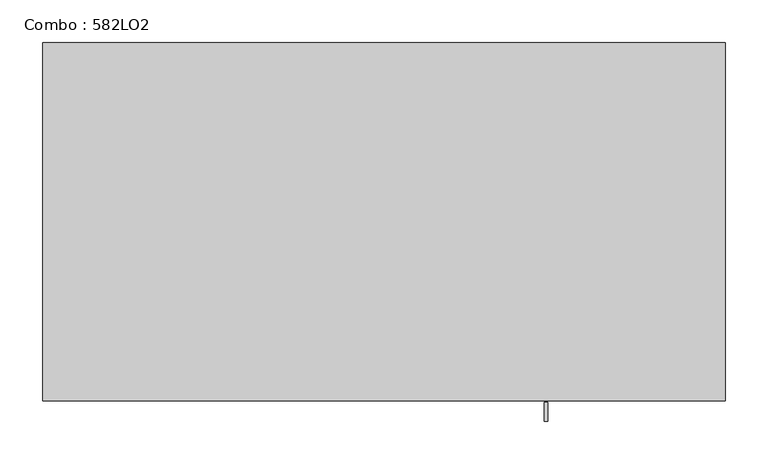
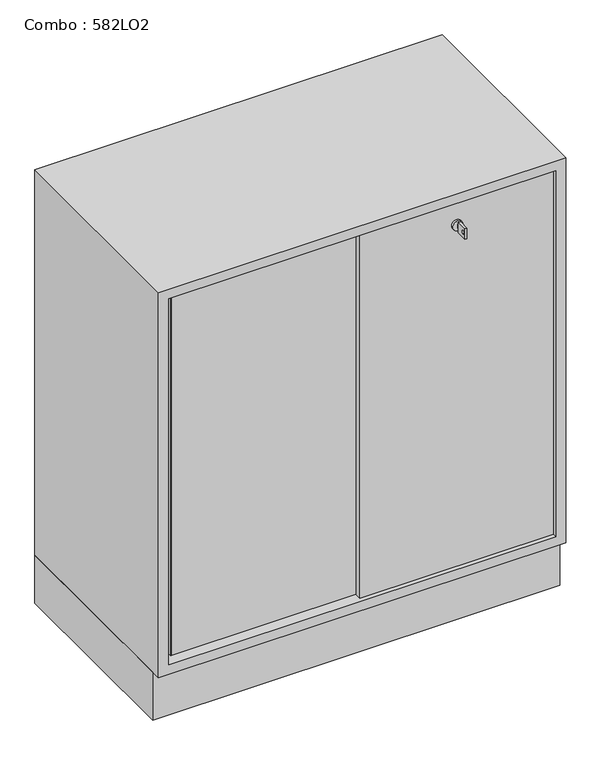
"""IFC4 building model written with IfcOpenShell, lengths in millimetres: furniture geometry, Combo : 582LO2."""

from ifc_helpers import new_model, si_unit, point, frame, frame_2d, origin, origin_with_axes, place, context, project, spatial, polyline, circle_curve, trimmed, segment, composite_curve, outline, extrude, faceted_brep, source, transform, mapped, element, save


def combo_582lo2_4d29bc16(model_context):
    return source(origin(), model_context, "Body", "SolidModel", [
        extrude(outline(polyline([(-400.0, -400.0), (-400.0, 0.0), (400.0, 0.0), (400.0, -400.0), (-400.0, -400.0)])), origin_with_axes(), (0.0, 0.0, 1.0), 100.0),
        extrude(outline(composite_curve([segment(trimmed(circle_curve(frame_2d((830.0, 190.0)), 10.0), [point((830.0, 180.0))], [point((830.0, 200.0))], False, "CARTESIAN"), True, "CONTINUOUS"), segment(trimmed(circle_curve(frame_2d((830.0, 190.0)), 10.0), [point((830.0, 200.0))], [point((830.0, 180.0))], False, "CARTESIAN"), True, "CONTINUOUS")], self_intersect=False)), frame((0.0, -416.0, 0.0), z_axis=(0.0, 1.0, 0.0), x_axis=(0.0, 0.0, 1.0)), (0.0, 0.0, 1.0), 4.0),
        extrude(outline(polyline([(-444.0, 819.014113), (-444.0, 841.0), (-422.0, 841.0), (-422.0, 819.014113), (-444.0, 819.014113)]), holes=[composite_curve([segment(trimmed(circle_curve(frame_2d((-437.75, 830.0070565)), 3.2230706), [point((-437.75, 833.2301271))], [point((-437.75, 826.7839859))], True, "CARTESIAN"), True, "CONTINUOUS"), segment(trimmed(circle_curve(frame_2d((-437.75, 830.0070565)), 3.2230706), [point((-437.75, 826.7839859))], [point((-437.75, 833.2301271))], True, "CARTESIAN"), True, "CONTINUOUS")], self_intersect=False)]), frame((188.0, 0.0, 0.0), z_axis=(1.0, 0.0, 0.0), x_axis=(0.0, 1.0, 0.0)), (0.0, 0.0, 1.0), 4.0416064),
        extrude(outline(polyline([(191.0416064, -422.0), (189.0, -422.0), (189.0, -416.0), (191.0416064, -416.0), (191.0416064, -422.0)])), frame((0.0, 0.0, 826.014113), z_axis=(0.0, 0.0, 1.0), x_axis=(1.0, 0.0, 0.0)), (0.0, 0.0, 1.0), 7.985887),
        extrude(outline(polyline([(-378.0478528, -398.0), (-380.0, -398.0), (-380.0, -386.0), (380.0, -386.0), (380.0, -412.0), (0.0, -412.0), (0.0, -400.0), (8.9521472, -400.0), (8.9521472, -398.0), (-361.0478528, -398.0), (-363.0478528, -398.0), (-363.0478528, -388.0), (-378.0478528, -388.0), (-378.0478528, -398.0)])), frame((0.0, 0.0, 120.0), z_axis=(0.0, 0.0, 1.0), x_axis=(1.0, 0.0, 0.0)), (0.0, 0.0, 1.0), 760.0),
        faceted_brep([(400.0, 0.0, 900.0), (-400.0, 0.0, 900.0), (-400.0, -420.0, 900.0), (400.0, -420.0, 900.0), (-400.0, 0.0, 100.0), (400.0, 0.0, 100.0), (400.0, -420.0, 100.0), (-400.0, -420.0, 100.0), (-380.0, -420.0, 880.0), (380.0, -420.0, 880.0), (380.0, -420.0, 120.0), (-380.0, -420.0, 120.0), (-380.0, -386.0, 880.0), (380.0, -386.0, 880.0), (-380.0, -386.0, 120.0), (380.0, -386.0, 120.0)], [[[0, 1, 2, 3]], [[4, 5, 6, 7]], [[1, 0, 5, 4]], [[2, 1, 4, 7]], [[3, 2, 7, 6], [8, 9, 10, 11]], [[0, 3, 6, 5]], [[12, 13, 9, 8]], [[14, 11, 10, 15]], [[9, 13, 15, 10]], [[12, 8, 11, 14]], [[13, 12, 14, 15]]]),
    ])


if __name__ == "__main__":
    model = new_model("IFC4")
    model_context = context("Model", 3, world=origin())
    ifc_project = project(units=[si_unit("LENGTHUNIT", "METRE", prefix="MILLI")], contexts=[model_context])
    site = spatial("IfcSite", under=ifc_project)
    building = spatial("IfcBuilding", under=site)
    placement = place(None, origin())
    combo_582lo2_shape = combo_582lo2_4d29bc16(model_context)
    element("IfcFurniture", 1, ObjectType="Combo : 582LO2", at=placement, inside=building, context=model_context, shape_type="MappedRepresentation", body=[
        mapped(combo_582lo2_shape, transform((0.0, 0.0, 0.0), x_axis=(1.0, 0.0, 0.0), y_axis=(0.0, 1.0, 0.0), z_axis=(0.0, 0.0, 1.0))),
    ])
    save(model, "model.ifc")
